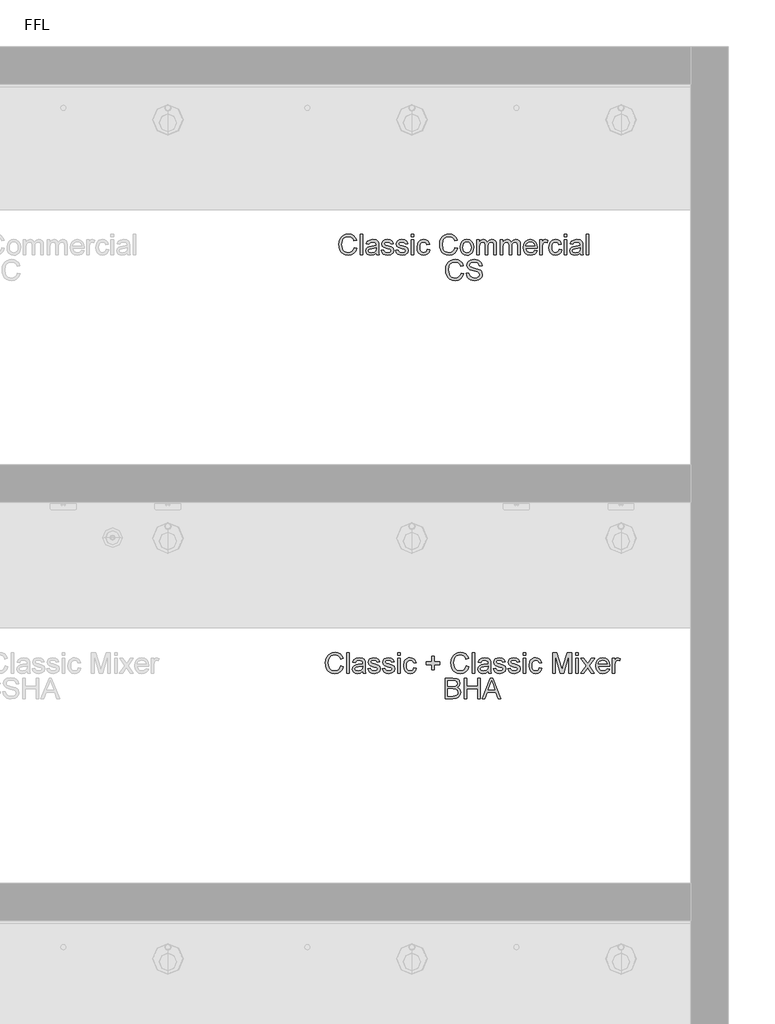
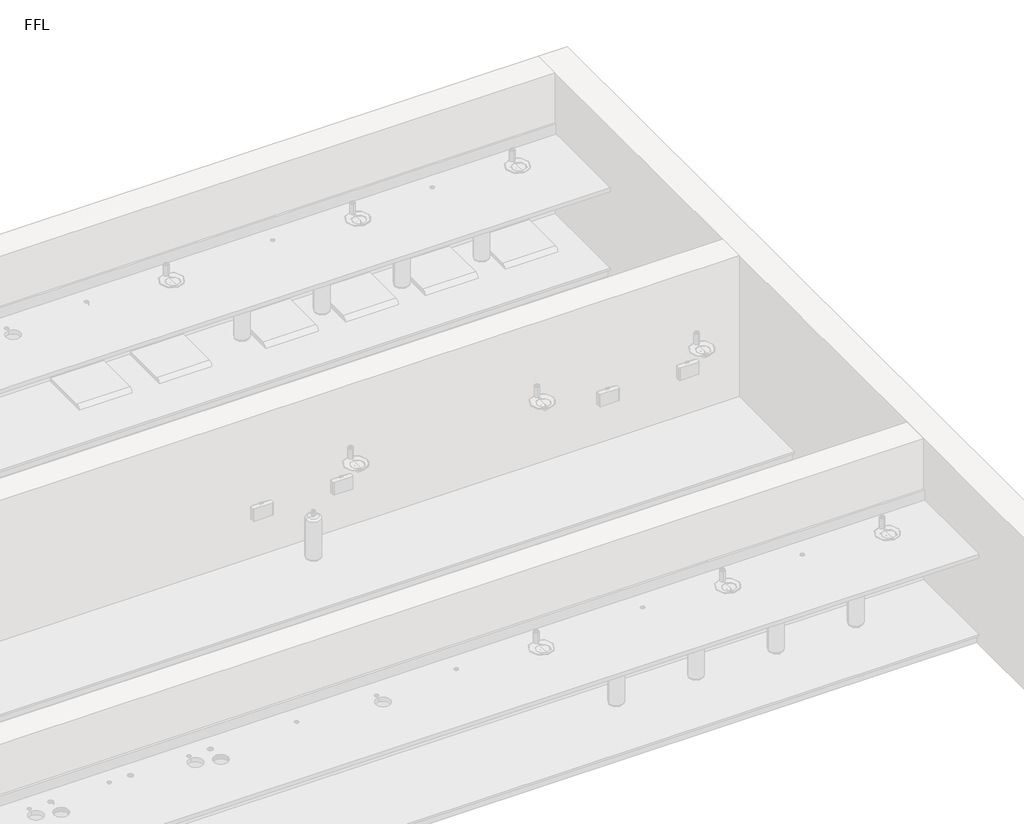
# One storey, part 13 of 13: 2 proxies.
"""IFC4 building model written with IfcOpenShell, lengths in millimetres."""

from ifc_helpers import new_model, si_unit, origin, origin_with_axes, place, context, project, spatial, polyline, outline, extrude, element, save

model = new_model("IFC4")

# Units and contexts
model_context = context("Model", 3, world=origin())
ifc_project = project(units=[si_unit("LENGTHUNIT", "METRE", prefix="MILLI")], contexts=[model_context])

# Site, building, storey
site = spatial("IfcSite", under=ifc_project)
building = spatial("IfcBuilding", under=site)
storey = spatial("IfcBuildingStorey", under=building, Name="FFL", Elevation=0.0)

# Proxies
placement = place(None, origin())
element("IfcBuildingElementProxy", 1, Name="150mm Arial", ObjectType="150mm Arial", at=placement, inside=storey, context=model_context, shape_type="SweptSolid", body=[
    extrude(outline(polyline([(10117.1877841, 6676.3018309), (10135.6493225, 6671.5422155), (10127.1306927, 6650.0292948), (10113.7623033, 6634.3126482), (10096.2022071, 6624.698766), (10075.1084571, 6621.4941386), (10053.6946951, 6623.9190184), (10036.688986, 6631.1936578), (10023.6541302, 6643.065653), (10014.1529283, 6659.2826001), (10008.352147, 6678.3481049), (10006.4185533, 6698.7657732), (10008.6045509, 6720.3012299), (10015.1625437, 6738.8979847), (10025.7499836, 6753.9655929), (10040.0243225, 6764.9136097), (10056.9534091, 6771.5797756), (10075.5050917, 6773.8018309), (10095.7469788, 6770.9262299), (10112.4822552, 6762.299427), (10125.1880845, 6748.4532732), (10133.3416302, 6729.9196193), (10114.8800917, 6725.5205809), (10108.4798514, 6738.9836217), (10099.735861, 6748.2188982), (10088.5399475, 6753.5599439), (10074.7839379, 6755.3402924), (10058.9275677, 6753.3661338), (10045.9017264, 6747.4436578), (10036.0174115, 6738.1948597), (10029.5856206, 6726.2417347), (10024.8800917, 6698.8018309), (10030.4510052, 6666.9989463), (10037.5723994, 6655.1224439), (10047.7947552, 6646.6804367), (10060.0498634, 6641.6368669), (10073.2695148, 6639.955677), (10088.6796711, 6642.2453405), (10101.5207167, 6649.1143309), (10111.2157288, 6660.4905328), (10117.1877841, 6676.3018309)])), origin_with_axes(), (0.0, 0.0, 1.0), 5.0),
    extrude(outline(polyline([(10158.7262456, 6623.8018309), (10158.7262456, 6771.4941386), (10177.1877841, 6771.4941386), (10177.1877841, 6623.8018309), (10158.7262456, 6623.8018309)])), origin_with_axes(), (0.0, 0.0, 1.0), 5.0),
    extrude(outline(polyline([(10274.110861, 6637.6479847), (10256.2082167, 6625.1359655), (10236.4305725, 6621.4941386), (10221.0023874, 6623.6846434), (10209.6216783, 6630.2561578), (10202.6039499, 6640.2351242), (10200.2647071, 6652.6479847), (10203.798361, 6667.2513501), (10213.0832167, 6677.8523117), (10226.0098994, 6683.910004), (10241.9834571, 6686.6864463), (10274.0026879, 6693.0326001), (10274.110861, 6697.143177), (10272.8398273, 6705.3823597), (10269.0267264, 6710.7729847), (10260.4990821, 6714.7753886), (10248.6180725, 6716.1095232), (10229.9401879, 6712.5578405), (10221.0339379, 6699.955677), (10202.5723994, 6702.2633693), (10210.5591783, 6720.2922155), (10226.6409091, 6730.8571193), (10250.9978802, 6734.5710617), (10273.3716783, 6731.2898117), (10286.0098994, 6723.050629), (10291.6709571, 6710.5205809), (10292.5723994, 6694.3667347), (10292.5723994, 6671.3979847), (10293.5098994, 6639.3246674), (10297.1877841, 6623.8018309), (10278.7262456, 6623.8018309), (10274.110861, 6637.6479847)]), holes=[polyline([(10274.110861, 6674.5710617), (10244.3272071, 6668.910004), (10228.4437937, 6665.9172155), (10221.2502841, 6661.049427), (10218.7262456, 6653.9460617), (10224.2250437, 6643.9580809), (10240.360861, 6639.955677), (10259.0387456, 6644.3727443), (10271.0820148, 6655.0638501), (10274.0026879, 6669.3426963), (10274.110861, 6674.5710617)])]), origin_with_axes(), (0.0, 0.0, 1.0), 5.0),
    extrude(outline(polyline([(10311.0339379, 6656.1095232), (10329.4954764, 6658.4172155), (10332.407135, 6650.5205809), (10338.0411494, 6644.7152924), (10357.6204764, 6639.955677), (10376.4425917, 6644.3186578), (10382.5723994, 6654.5590424), (10376.4065341, 6662.8523117), (10357.4041302, 6668.1167347), (10329.6036494, 6677.1491867), (10317.470236, 6687.6960617), (10313.3416302, 6702.5878886), (10316.6589379, 6716.3438982), (10325.7094187, 6726.8547155), (10337.4461975, 6732.3174559), (10353.329611, 6734.5710617), (10375.7935533, 6730.9472636), (10390.0723994, 6721.1395713), (10396.4185533, 6704.5710617), (10377.9570148, 6702.2633693), (10371.0159091, 6712.4496674), (10354.7719187, 6716.1095232), (10337.1036494, 6712.611927), (10331.8031687, 6704.4628886), (10334.0026879, 6699.0902924), (10340.8897071, 6695.0157732), (10356.7911494, 6691.0854847), (10383.8885052, 6682.3955809), (10396.4726398, 6672.5518309), (10401.0339379, 6656.5061578), (10395.6793706, 6638.8378886), (10380.2286494, 6626.019379), (10357.3680725, 6621.4941386), (10338.7532889, 6623.675629), (10325.1685533, 6630.2201001), (10316.1000437, 6641.0554367), (10311.0339379, 6656.1095232)])), origin_with_axes(), (0.0, 0.0, 1.0), 5.0),
    extrude(outline(polyline([(10414.8800917, 6656.1095232), (10433.3416302, 6658.4172155), (10436.2532889, 6650.5205809), (10441.8873033, 6644.7152924), (10461.4666302, 6639.955677), (10480.2887456, 6644.3186578), (10486.4185533, 6654.5590424), (10480.2526879, 6662.8523117), (10461.2502841, 6668.1167347), (10433.4498033, 6677.1491867), (10421.3163898, 6687.6960617), (10417.1877841, 6702.5878886), (10420.5050917, 6716.3438982), (10429.5555725, 6726.8547155), (10441.2923514, 6732.3174559), (10457.1757648, 6734.5710617), (10479.6397071, 6730.9472636), (10493.9185533, 6721.1395713), (10500.2647071, 6704.5710617), (10481.8031687, 6702.2633693), (10474.8620629, 6712.4496674), (10458.6180725, 6716.1095232), (10440.9498033, 6712.611927), (10435.6493225, 6704.4628886), (10437.8488417, 6699.0902924), (10444.735861, 6695.0157732), (10460.6373033, 6691.0854847), (10487.7346591, 6682.3955809), (10500.3187937, 6672.5518309), (10504.8800917, 6656.5061578), (10499.5255244, 6638.8378886), (10484.0748033, 6626.019379), (10461.2142264, 6621.4941386), (10442.5994427, 6623.675629), (10429.0147071, 6630.2201001), (10419.9461975, 6641.0554367), (10414.8800917, 6656.1095232)])), origin_with_axes(), (0.0, 0.0, 1.0), 5.0),
    extrude(outline(polyline([(10525.6493225, 6623.8018309), (10525.6493225, 6732.2633693), (10544.110861, 6732.2633693), (10544.110861, 6623.8018309), (10525.6493225, 6623.8018309)])), origin_with_axes(), (0.0, 0.0, 1.0), 5.0),
    extrude(outline(polyline([(10525.6493225, 6753.0326001), (10525.6493225, 6771.4941386), (10544.110861, 6771.4941386), (10544.110861, 6753.0326001), (10525.6493225, 6753.0326001)])), origin_with_axes(), (0.0, 0.0, 1.0), 5.0),
    extrude(outline(polyline([(10641.0339379, 6663.0326001), (10659.4954764, 6660.7249078), (10654.3482408, 6644.3051362), (10644.6757648, 6631.8967828), (10631.3885052, 6624.0947996), (10615.3969187, 6621.4941386), (10595.758998, 6625.1224439), (10580.4029283, 6636.0073597), (10570.4915701, 6653.6711217), (10567.1877841, 6677.6359655), (10572.8308129, 6708.3030328), (10579.9522071, 6719.8009294), (10590.0303321, 6728.0085617), (10602.087123, 6732.9304367), (10615.1445148, 6734.5710617), (10630.743974, 6732.3174559), (10643.2154283, 6725.5566386), (10652.1622432, 6714.6491867), (10657.1877841, 6699.955677), (10638.7262456, 6697.6479847), (10630.1625437, 6711.4761097), (10615.2887456, 6716.1095232), (10603.3581566, 6713.8288742), (10593.8885052, 6706.986927), (10587.7091182, 6695.2140905), (10585.6493225, 6678.1407732), (10587.6640461, 6660.8375881), (10593.7082167, 6649.0241867), (10603.0065941, 6642.2228044), (10614.7839379, 6639.955677), (10624.3437336, 6641.3709415), (10632.1817744, 6645.6167347), (10637.883397, 6652.8012299), (10641.0339379, 6663.0326001)])), origin_with_axes(), (0.0, 0.0, 1.0), 5.0),
    extrude(outline(polyline([(10839.4954764, 6676.3018309), (10857.9570148, 6671.5422155), (10849.438385, 6650.0292948), (10836.0699956, 6634.3126482), (10818.5098994, 6624.698766), (10797.4161494, 6621.4941386), (10776.0023874, 6623.9190184), (10758.9966783, 6631.1936578), (10745.9618225, 6643.065653), (10736.4606206, 6659.2826001), (10730.6598393, 6678.3481049), (10728.7262456, 6698.7657732), (10730.9122432, 6720.3012299), (10737.470236, 6738.8979847), (10748.0576759, 6753.9655929), (10762.3320148, 6764.9136097), (10779.2611014, 6771.5797756), (10797.8127841, 6773.8018309), (10818.0546711, 6770.9262299), (10834.7899475, 6762.299427), (10847.4957768, 6748.4532732), (10855.6493225, 6729.9196193), (10837.1877841, 6725.5205809), (10830.7875437, 6738.9836217), (10822.0435533, 6748.2188982), (10810.8476398, 6753.5599439), (10797.0916302, 6755.3402924), (10781.23526, 6753.3661338), (10768.2094187, 6747.4436578), (10758.3251038, 6738.1948597), (10751.8933129, 6726.2417347), (10747.1877841, 6698.8018309), (10752.7586975, 6666.9989463), (10759.8800917, 6655.1224439), (10770.1024475, 6646.6804367), (10782.3575557, 6641.6368669), (10795.5772071, 6639.955677), (10810.9873634, 6642.2453405), (10823.8284091, 6649.1143309), (10833.5234211, 6660.4905328), (10839.4954764, 6676.3018309)])), origin_with_axes(), (0.0, 0.0, 1.0), 5.0),
    extrude(outline(polyline([(10876.4185533, 6678.0326001), (10880.4119427, 6704.1834415), (10892.392111, 6722.5638501), (10907.1937937, 6731.5692588), (10924.9161494, 6734.5710617), (10944.3106807, 6730.9157131), (10959.8019667, 6719.9496674), (10969.9567143, 6702.5383092), (10973.3416302, 6679.5470232), (10971.845236, 6660.8961818), (10967.3560533, 6646.6984655), (10960.0047913, 6636.0659535), (10949.9221591, 6628.1107251), (10937.946498, 6623.1482852), (10924.9161494, 6621.4941386), (10905.2872432, 6625.1359655), (10889.813986, 6636.0614463), (10879.7674115, 6653.8378886), (10876.4185533, 6678.0326001)]), holes=[polyline([(10894.8800917, 6678.0686578), (10897.01651, 6661.3604246), (10903.4257648, 6649.456879), (10913.0711975, 6642.3309775), (10924.9161494, 6639.955677), (10936.7070148, 6642.3444992), (10946.3344187, 6649.5109655), (10952.7436735, 6661.5722636), (10954.8800917, 6678.6455809), (10952.7301518, 6694.8670352), (10946.2803321, 6706.6083213), (10936.6394066, 6713.7342227), (10924.9161494, 6716.1095232), (10913.0711975, 6713.7432371), (10903.4257648, 6706.644379), (10897.01651, 6694.7678766), (10894.8800917, 6678.0686578)])]), origin_with_axes(), (0.0, 0.0, 1.0), 5.0),
    extrude(outline(polyline([(10994.110861, 6623.8018309), (10994.110861, 6732.2633693), (11012.5723994, 6732.2633693), (11012.5723994, 6714.4148117), (11025.2647071, 6729.0362059), (11043.329611, 6734.5710617), (11053.5970389, 6733.1603044), (11061.8272071, 6728.9280328), (11071.9954764, 6713.1167347), (11086.4005244, 6729.2074799), (11104.5916302, 6734.5710617), (11118.4693345, 6732.3399919), (11128.7322552, 6725.6467828), (11135.0739018, 6714.3111458), (11137.1877841, 6698.1527924), (11137.1877841, 6623.8018309), (11118.7262456, 6623.8018309), (11118.7262456, 6690.2201001), (11117.0135052, 6705.6347636), (11110.8115821, 6713.2249078), (11100.2647071, 6716.1095232), (11090.2632047, 6714.2615665), (11082.1096591, 6708.7176963), (11076.6874836, 6699.0993068), (11074.8800917, 6685.0277924), (11074.8800917, 6623.8018309), (11056.4185533, 6623.8018309), (11056.4185533, 6692.2753886), (11052.1457167, 6710.160004), (11046.5071951, 6714.6221434), (11038.1373033, 6716.1095232), (11024.4714379, 6712.143177), (11015.3848994, 6700.5326001), (11012.5723994, 6678.5013501), (11012.5723994, 6623.8018309), (10994.110861, 6623.8018309)])), origin_with_axes(), (0.0, 0.0, 1.0), 5.0),
    extrude(outline(polyline([(11164.8800917, 6623.8018309), (11164.8800917, 6732.2633693), (11183.3416302, 6732.2633693), (11183.3416302, 6714.4148117), (11196.0339379, 6729.0362059), (11214.0988417, 6734.5710617), (11224.3662696, 6733.1603044), (11232.5964379, 6728.9280328), (11242.7647071, 6713.1167347), (11257.1697552, 6729.2074799), (11275.360861, 6734.5710617), (11289.2385653, 6732.3399919), (11299.501486, 6725.6467828), (11305.8431326, 6714.3111458), (11307.9570148, 6698.1527924), (11307.9570148, 6623.8018309), (11289.4954764, 6623.8018309), (11289.4954764, 6690.2201001), (11287.782736, 6705.6347636), (11281.5808129, 6713.2249078), (11271.0339379, 6716.1095232), (11261.0324355, 6714.2615665), (11252.8788898, 6708.7176963), (11247.4567143, 6699.0993068), (11245.6493225, 6685.0277924), (11245.6493225, 6623.8018309), (11227.1877841, 6623.8018309), (11227.1877841, 6692.2753886), (11222.9149475, 6710.160004), (11217.2764259, 6714.6221434), (11208.9065341, 6716.1095232), (11195.2406687, 6712.143177), (11186.1541302, 6700.5326001), (11183.3416302, 6678.5013501), (11183.3416302, 6623.8018309), (11164.8800917, 6623.8018309)])), origin_with_axes(), (0.0, 0.0, 1.0), 5.0),
    extrude(outline(polyline([(11411.5868225, 6656.1095232), (11429.6877841, 6653.8018309), (11423.165849, 6640.1630088), (11412.7586975, 6629.9676963), (11398.7007047, 6623.612528), (11381.2262456, 6621.4941386), (11359.5645869, 6625.1494871), (11342.8969187, 6636.1155328), (11332.2689139, 6653.6801362), (11328.7262456, 6677.1311578), (11332.3049716, 6701.3709415), (11343.0411494, 6719.4989463), (11359.4834571, 6730.8030328), (11380.1805725, 6734.5710617), (11400.2331566, 6730.8120472), (11416.2562937, 6719.535004), (11426.7626038, 6701.4430568), (11430.2647071, 6677.2393309), (11430.1565341, 6672.2633693), (11347.1877841, 6672.2633693), (11350.383397, 6658.4442588), (11357.8067744, 6648.285004), (11368.5204163, 6642.0380088), (11381.5868225, 6639.955677), (11399.6877841, 6643.8138501), (11411.5868225, 6656.1095232)]), holes=[polyline([(11347.1877841, 6690.7249078), (11411.8031687, 6690.7249078), (11409.3061735, 6700.4785136), (11404.4113417, 6707.455677), (11393.6481206, 6713.9460617), (11380.1084571, 6716.1095232), (11367.6640461, 6714.3832612), (11357.3740821, 6709.2044751), (11350.2211374, 6701.1320592), (11347.1877841, 6690.7249078)])]), origin_with_axes(), (0.0, 0.0, 1.0), 5.0),
    extrude(outline(polyline([(11448.7262456, 6623.8018309), (11448.7262456, 6732.2633693), (11464.8800917, 6732.2633693), (11464.8800917, 6716.2176963), (11476.3464379, 6731.0013501), (11487.8848994, 6734.5710617), (11506.4185533, 6728.8739463), (11500.2526879, 6712.3234655), (11487.2719187, 6716.1095232), (11476.8332167, 6712.4676963), (11470.1805725, 6702.3715424), (11467.1877841, 6680.8090424), (11467.1877841, 6623.8018309), (11448.7262456, 6623.8018309)])), origin_with_axes(), (0.0, 0.0, 1.0), 5.0),
    extrude(outline(polyline([(11587.1877841, 6663.0326001), (11605.6493225, 6660.7249078), (11600.5020869, 6644.3051362), (11590.829611, 6631.8967828), (11577.5423514, 6624.0947996), (11561.5507648, 6621.4941386), (11541.9128441, 6625.1224439), (11526.5567744, 6636.0073597), (11516.6454163, 6653.6711217), (11513.3416302, 6677.6359655), (11518.9846591, 6708.3030328), (11526.1060533, 6719.8009294), (11536.1841783, 6728.0085617), (11548.2409691, 6732.9304367), (11561.298361, 6734.5710617), (11576.8978201, 6732.3174559), (11589.3692744, 6725.5566386), (11598.3160893, 6714.6491867), (11603.3416302, 6699.955677), (11584.8800917, 6697.6479847), (11576.3163898, 6711.4761097), (11561.4425917, 6716.1095232), (11549.5120028, 6713.8288742), (11540.0423514, 6706.986927), (11533.8629643, 6695.2140905), (11531.8031687, 6678.1407732), (11533.8178922, 6660.8375881), (11539.8620629, 6649.0241867), (11549.1604403, 6642.2228044), (11560.9377841, 6639.955677), (11570.4975797, 6641.3709415), (11578.3356206, 6645.6167347), (11584.0372432, 6652.8012299), (11587.1877841, 6663.0326001)])), origin_with_axes(), (0.0, 0.0, 1.0), 5.0),
    extrude(outline(polyline([(11621.8031687, 6623.8018309), (11621.8031687, 6732.2633693), (11640.2647071, 6732.2633693), (11640.2647071, 6623.8018309), (11621.8031687, 6623.8018309)])), origin_with_axes(), (0.0, 0.0, 1.0), 5.0),
    extrude(outline(polyline([(11621.8031687, 6753.0326001), (11621.8031687, 6771.4941386), (11640.2647071, 6771.4941386), (11640.2647071, 6753.0326001), (11621.8031687, 6753.0326001)])), origin_with_axes(), (0.0, 0.0, 1.0), 5.0),
    extrude(outline(polyline([(11737.1877841, 6637.6479847), (11719.2851398, 6625.1359655), (11699.5074956, 6621.4941386), (11684.0793105, 6623.6846434), (11672.6986014, 6630.2561578), (11665.680873, 6640.2351242), (11663.3416302, 6652.6479847), (11666.8752841, 6667.2513501), (11676.1601398, 6677.8523117), (11689.0868225, 6683.910004), (11705.0603802, 6686.6864463), (11737.079611, 6693.0326001), (11737.1877841, 6697.143177), (11735.9167504, 6705.3823597), (11732.1036494, 6710.7729847), (11723.5760052, 6714.7753886), (11711.6949956, 6716.1095232), (11693.017111, 6712.5578405), (11684.110861, 6699.955677), (11665.6493225, 6702.2633693), (11673.6361014, 6720.2922155), (11689.7178321, 6730.8571193), (11714.0748033, 6734.5710617), (11736.4486014, 6731.2898117), (11749.0868225, 6723.050629), (11754.7478802, 6710.5205809), (11755.6493225, 6694.3667347), (11755.6493225, 6671.3979847), (11756.5868225, 6639.3246674), (11760.2647071, 6623.8018309), (11741.8031687, 6623.8018309), (11737.1877841, 6637.6479847)]), holes=[polyline([(11737.1877841, 6674.5710617), (11707.4041302, 6668.910004), (11691.5207167, 6665.9172155), (11684.3272071, 6661.049427), (11681.8031687, 6653.9460617), (11687.3019667, 6643.9580809), (11703.4377841, 6639.955677), (11722.1156687, 6644.3727443), (11734.1589379, 6655.0638501), (11737.079611, 6669.3426963), (11737.1877841, 6674.5710617)])]), origin_with_axes(), (0.0, 0.0, 1.0), 5.0),
    extrude(outline(polyline([(11781.0339379, 6623.8018309), (11781.0339379, 6771.4941386), (11799.4954764, 6771.4941386), (11799.4954764, 6623.8018309), (11781.0339379, 6623.8018309)])), origin_with_axes(), (0.0, 0.0, 1.0), 5.0),
    extrude(outline(polyline([(10883.3416302, 6493.9941386), (10901.8031687, 6489.2345232), (10893.2845389, 6467.7216025), (10879.9161494, 6452.0049559), (10862.3560533, 6442.3910737), (10841.2623033, 6439.1864463), (10819.8485413, 6441.6113261), (10802.8428321, 6448.8859655), (10789.8079764, 6460.7579607), (10780.3067744, 6476.9749078), (10774.5059932, 6496.0404126), (10772.5723994, 6516.4580809), (10774.758397, 6537.9935376), (10781.3163898, 6556.5902924), (10791.9038297, 6571.6579006), (10806.1781687, 6582.6059174), (10823.1072552, 6589.2720833), (10841.6589379, 6591.4941386), (10861.9008249, 6588.6185376), (10878.6361014, 6579.9917347), (10891.3419307, 6566.1455809), (10899.4954764, 6547.611927), (10881.0339379, 6543.2128886), (10874.6336975, 6556.6759294), (10865.8897071, 6565.9112059), (10854.6937937, 6571.2522516), (10840.9377841, 6573.0326001), (10825.0814139, 6571.0584415), (10812.0555725, 6565.1359655), (10802.1712576, 6555.8871674), (10795.7394667, 6543.9340424), (10791.0339379, 6516.4941386), (10796.6048514, 6484.691254), (10803.7262456, 6472.8147516), (10813.9486014, 6464.3727443), (10826.2037095, 6459.3291746), (10839.423361, 6457.6479847), (10854.8335172, 6459.9376482), (10867.6745629, 6466.8066386), (10877.3695749, 6478.1828405), (10883.3416302, 6493.9941386)])), origin_with_axes(), (0.0, 0.0, 1.0), 5.0),
    extrude(outline(polyline([(10920.2647071, 6492.2633693), (10938.7262456, 6492.2633693), (10944.6757648, 6473.783802), (10959.2070148, 6462.1011097), (10981.3464379, 6457.6479847), (11000.6373033, 6461.019379), (11013.095236, 6470.2862059), (11017.1877841, 6482.6720232), (11014.1228802, 6494.1924559), (11001.5748033, 6502.5758693), (10974.6937937, 6509.6251482), (10945.7574956, 6518.7297155), (10930.0543706, 6532.4676963), (10924.8800917, 6550.8210617), (10926.4801518, 6561.6338621), (10931.2803321, 6571.7164943), (10939.1544307, 6580.2621674), (10949.9762456, 6586.4640905), (10977.3440341, 6591.4941386), (11006.5507648, 6586.2297155), (11017.7466783, 6579.7303165), (11026.0219187, 6570.7609655), (11031.2592985, 6559.8805568), (11033.3416302, 6547.6479847), (11014.8800917, 6547.6479847), (11011.4906687, 6558.6636097), (11004.423361, 6566.6143309), (10993.3806927, 6571.4280328), (10978.0651879, 6573.0326001), (10962.3891062, 6571.4460617), (10951.6348994, 6566.6864463), (10945.4149475, 6559.6822395), (10943.3416302, 6551.361927), (10944.8109812, 6544.2675761), (10949.2190341, 6538.5614463), (10979.3632648, 6528.2489463), (11012.0315341, 6518.9821193), (11022.555873, 6512.284403), (11029.8981206, 6504.018177), (11035.6493225, 6483.1407732), (11033.9951759, 6471.7600641), (11029.032736, 6461.0554367), (11020.9648273, 6451.8426963), (11009.9942744, 6444.9376482), (10982.0675917, 6439.1864463), (10963.9801518, 6440.736927), (10949.0928321, 6445.3883693), (10937.2343586, 6453.158802), (10928.2334571, 6464.066254), (10922.4552119, 6477.3535136), (10920.2647071, 6492.2633693)])), origin_with_axes(), (0.0, 0.0, 1.0), 5.0),
])
element("IfcBuildingElementProxy", 2, Name="150mm Arial", ObjectType="150mm Arial", at=placement, inside=storey, context=model_context, shape_type="SweptSolid", body=[
    extrude(outline(polyline([(10020.7273303, 3676.3018309), (10039.1888688, 3671.5422155), (10030.670239, 3650.0292948), (10017.3018496, 3634.3126482), (9999.7417534, 3624.698766), (9978.6480034, 3621.4941386), (9957.2342414, 3623.9190184), (9940.2285323, 3631.1936578), (9927.1936765, 3643.065653), (9917.6924746, 3659.2826001), (9911.8916933, 3678.3481049), (9909.9580996, 3698.7657732), (9912.1440972, 3720.3012299), (9918.70209, 3738.8979847), (9929.2895299, 3753.9655929), (9943.5638688, 3764.9136097), (9960.4929553, 3771.5797756), (9979.044638, 3773.8018309), (9999.286525, 3770.9262299), (10016.0218015, 3762.299427), (10028.7276308, 3748.4532732), (10036.8811765, 3729.9196193), (10018.419638, 3725.5205809), (10012.0193976, 3738.9836217), (10003.2754073, 3748.2188982), (9992.0794938, 3753.5599439), (9978.3234842, 3755.3402924), (9962.467114, 3753.3661338), (9949.4412726, 3747.4436578), (9939.5569577, 3738.1948597), (9933.1251669, 3726.2417347), (9928.419638, 3698.8018309), (9933.9905515, 3666.9989463), (9941.1119457, 3655.1224439), (9951.3343015, 3646.6804367), (9963.5894097, 3641.6368669), (9976.8090611, 3639.955677), (9992.2192174, 3642.2453405), (10005.060263, 3649.1143309), (10014.755275, 3660.4905328), (10020.7273303, 3676.3018309)])), origin_with_axes(), (0.0, 0.0, 1.0), 5.0),
    extrude(outline(polyline([(10062.2657919, 3623.8018309), (10062.2657919, 3771.4941386), (10080.7273303, 3771.4941386), (10080.7273303, 3623.8018309), (10062.2657919, 3623.8018309)])), origin_with_axes(), (0.0, 0.0, 1.0), 5.0),
    extrude(outline(polyline([(10177.6504073, 3637.6479847), (10159.747763, 3625.1359655), (10139.9701188, 3621.4941386), (10124.5419337, 3623.6846434), (10113.1612246, 3630.2561578), (10106.1434962, 3640.2351242), (10103.8042534, 3652.6479847), (10107.3379073, 3667.2513501), (10116.622763, 3677.8523117), (10129.5494457, 3683.910004), (10145.5230034, 3686.6864463), (10177.5422342, 3693.0326001), (10177.6504073, 3697.143177), (10176.3793736, 3705.3823597), (10172.5662726, 3710.7729847), (10164.0386284, 3714.7753886), (10152.1576188, 3716.1095232), (10133.4797342, 3712.5578405), (10124.5734842, 3699.955677), (10106.1119457, 3702.2633693), (10114.0987246, 3720.2922155), (10130.1804553, 3730.8571193), (10154.5374265, 3734.5710617), (10176.9112246, 3731.2898117), (10189.5494457, 3723.050629), (10195.2105034, 3710.5205809), (10196.1119457, 3694.3667347), (10196.1119457, 3671.3979847), (10197.0494457, 3639.3246674), (10200.7273303, 3623.8018309), (10182.2657919, 3623.8018309), (10177.6504073, 3637.6479847)]), holes=[polyline([(10177.6504073, 3674.5710617), (10147.8667534, 3668.910004), (10131.98334, 3665.9172155), (10124.7898303, 3661.049427), (10122.2657919, 3653.9460617), (10127.76459, 3643.9580809), (10143.9004073, 3639.955677), (10162.5782919, 3644.3727443), (10174.6215611, 3655.0638501), (10177.5422342, 3669.3426963), (10177.6504073, 3674.5710617)])]), origin_with_axes(), (0.0, 0.0, 1.0), 5.0),
    extrude(outline(polyline([(10214.5734842, 3656.1095232), (10233.0350226, 3658.4172155), (10235.9466813, 3650.5205809), (10241.5806957, 3644.7152924), (10261.1600226, 3639.955677), (10279.982138, 3644.3186578), (10286.1119457, 3654.5590424), (10279.9460803, 3662.8523117), (10260.9436765, 3668.1167347), (10233.1431957, 3677.1491867), (10221.0097823, 3687.6960617), (10216.8811765, 3702.5878886), (10220.1984842, 3716.3438982), (10229.248965, 3726.8547155), (10240.9857438, 3732.3174559), (10256.8691573, 3734.5710617), (10279.3330996, 3730.9472636), (10293.6119457, 3721.1395713), (10299.9580996, 3704.5710617), (10281.4965611, 3702.2633693), (10274.5554553, 3712.4496674), (10258.311465, 3716.1095232), (10240.6431957, 3712.611927), (10235.342715, 3704.4628886), (10237.5422342, 3699.0902924), (10244.4292534, 3695.0157732), (10260.3306957, 3691.0854847), (10287.4280515, 3682.3955809), (10300.0121861, 3672.5518309), (10304.5734842, 3656.5061578), (10299.2189169, 3638.8378886), (10283.7681957, 3626.019379), (10260.9076188, 3621.4941386), (10242.2928351, 3623.675629), (10228.7080996, 3630.2201001), (10219.63959, 3641.0554367), (10214.5734842, 3656.1095232)])), origin_with_axes(), (0.0, 0.0, 1.0), 5.0),
    extrude(outline(polyline([(10318.419638, 3656.1095232), (10336.8811765, 3658.4172155), (10339.7928351, 3650.5205809), (10345.4268496, 3644.7152924), (10365.0061765, 3639.955677), (10383.8282919, 3644.3186578), (10389.9580996, 3654.5590424), (10383.7922342, 3662.8523117), (10364.7898303, 3668.1167347), (10336.9893496, 3677.1491867), (10324.8559361, 3687.6960617), (10320.7273303, 3702.5878886), (10324.044638, 3716.3438982), (10333.0951188, 3726.8547155), (10344.8318976, 3732.3174559), (10360.7153111, 3734.5710617), (10383.1792534, 3730.9472636), (10397.4580996, 3721.1395713), (10403.8042534, 3704.5710617), (10385.342715, 3702.2633693), (10378.4016092, 3712.4496674), (10362.1576188, 3716.1095232), (10344.4893496, 3712.611927), (10339.1888688, 3704.4628886), (10341.388388, 3699.0902924), (10348.2754073, 3695.0157732), (10364.1768496, 3691.0854847), (10391.2742053, 3682.3955809), (10403.85834, 3672.5518309), (10408.419638, 3656.5061578), (10403.0650707, 3638.8378886), (10387.6143496, 3626.019379), (10364.7537726, 3621.4941386), (10346.138989, 3623.675629), (10332.5542534, 3630.2201001), (10323.4857438, 3641.0554367), (10318.419638, 3656.1095232)])), origin_with_axes(), (0.0, 0.0, 1.0), 5.0),
    extrude(outline(polyline([(10429.1888688, 3623.8018309), (10429.1888688, 3732.2633693), (10447.6504073, 3732.2633693), (10447.6504073, 3623.8018309), (10429.1888688, 3623.8018309)])), origin_with_axes(), (0.0, 0.0, 1.0), 5.0),
    extrude(outline(polyline([(10429.1888688, 3753.0326001), (10429.1888688, 3771.4941386), (10447.6504073, 3771.4941386), (10447.6504073, 3753.0326001), (10429.1888688, 3753.0326001)])), origin_with_axes(), (0.0, 0.0, 1.0), 5.0),
    extrude(outline(polyline([(10544.5734842, 3663.0326001), (10563.0350226, 3660.7249078), (10557.8877871, 3644.3051362), (10548.2153111, 3631.8967828), (10534.9280515, 3624.0947996), (10518.936465, 3621.4941386), (10499.2985443, 3625.1224439), (10483.9424746, 3636.0073597), (10474.0311164, 3653.6711217), (10470.7273303, 3677.6359655), (10476.3703592, 3708.3030328), (10483.4917534, 3719.8009294), (10493.5698784, 3728.0085617), (10505.6266693, 3732.9304367), (10518.6840611, 3734.5710617), (10534.2835202, 3732.3174559), (10546.7549746, 3725.5566386), (10555.7017895, 3714.6491867), (10560.7273303, 3699.955677), (10542.2657919, 3697.6479847), (10533.70209, 3711.4761097), (10518.8282919, 3716.1095232), (10506.8977029, 3713.8288742), (10497.4280515, 3706.986927), (10491.2486645, 3695.2140905), (10489.1888688, 3678.1407732), (10491.2035924, 3660.8375881), (10497.247763, 3649.0241867), (10506.5461404, 3642.2228044), (10518.3234842, 3639.955677), (10527.8832799, 3641.3709415), (10535.7213207, 3645.6167347), (10541.4229433, 3652.8012299), (10544.5734842, 3663.0326001)])), origin_with_axes(), (0.0, 0.0, 1.0), 5.0),
    extrude(outline(polyline([(10673.8042534, 3646.878754), (10673.8042534, 3686.1095232), (10634.5734842, 3686.1095232), (10634.5734842, 3704.5710617), (10673.8042534, 3704.5710617), (10673.8042534, 3743.8018309), (10692.2657919, 3743.8018309), (10692.2657919, 3704.5710617), (10731.4965611, 3704.5710617), (10731.4965611, 3686.1095232), (10692.2657919, 3686.1095232), (10692.2657919, 3646.878754), (10673.8042534, 3646.878754)])), origin_with_axes(), (0.0, 0.0, 1.0), 5.0),
    extrude(outline(polyline([(10920.7273303, 3676.3018309), (10939.1888688, 3671.5422155), (10930.670239, 3650.0292948), (10917.3018496, 3634.3126482), (10899.7417534, 3624.698766), (10878.6480034, 3621.4941386), (10857.2342414, 3623.9190184), (10840.2285323, 3631.1936578), (10827.1936765, 3643.065653), (10817.6924746, 3659.2826001), (10811.8916933, 3678.3481049), (10809.9580996, 3698.7657732), (10812.1440972, 3720.3012299), (10818.70209, 3738.8979847), (10829.2895299, 3753.9655929), (10843.5638688, 3764.9136097), (10860.4929553, 3771.5797756), (10879.044638, 3773.8018309), (10899.286525, 3770.9262299), (10916.0218015, 3762.299427), (10928.7276308, 3748.4532732), (10936.8811765, 3729.9196193), (10918.419638, 3725.5205809), (10912.0193976, 3738.9836217), (10903.2754073, 3748.2188982), (10892.0794938, 3753.5599439), (10878.3234842, 3755.3402924), (10862.467114, 3753.3661338), (10849.4412726, 3747.4436578), (10839.5569577, 3738.1948597), (10833.1251669, 3726.2417347), (10828.419638, 3698.8018309), (10833.9905515, 3666.9989463), (10841.1119457, 3655.1224439), (10851.3343015, 3646.6804367), (10863.5894097, 3641.6368669), (10876.8090611, 3639.955677), (10892.2192174, 3642.2453405), (10905.060263, 3649.1143309), (10914.755275, 3660.4905328), (10920.7273303, 3676.3018309)])), origin_with_axes(), (0.0, 0.0, 1.0), 5.0),
    extrude(outline(polyline([(10962.2657919, 3623.8018309), (10962.2657919, 3771.4941386), (10980.7273303, 3771.4941386), (10980.7273303, 3623.8018309), (10962.2657919, 3623.8018309)])), origin_with_axes(), (0.0, 0.0, 1.0), 5.0),
    extrude(outline(polyline([(11077.6504073, 3637.6479847), (11059.747763, 3625.1359655), (11039.9701188, 3621.4941386), (11024.5419337, 3623.6846434), (11013.1612246, 3630.2561578), (11006.1434962, 3640.2351242), (11003.8042534, 3652.6479847), (11007.3379073, 3667.2513501), (11016.622763, 3677.8523117), (11029.5494457, 3683.910004), (11045.5230034, 3686.6864463), (11077.5422342, 3693.0326001), (11077.6504073, 3697.143177), (11076.3793736, 3705.3823597), (11072.5662726, 3710.7729847), (11064.0386284, 3714.7753886), (11052.1576188, 3716.1095232), (11033.4797342, 3712.5578405), (11024.5734842, 3699.955677), (11006.1119457, 3702.2633693), (11014.0987246, 3720.2922155), (11030.1804553, 3730.8571193), (11054.5374265, 3734.5710617), (11076.9112246, 3731.2898117), (11089.5494457, 3723.050629), (11095.2105034, 3710.5205809), (11096.1119457, 3694.3667347), (11096.1119457, 3671.3979847), (11097.0494457, 3639.3246674), (11100.7273303, 3623.8018309), (11082.2657919, 3623.8018309), (11077.6504073, 3637.6479847)]), holes=[polyline([(11077.6504073, 3674.5710617), (11047.8667534, 3668.910004), (11031.98334, 3665.9172155), (11024.7898303, 3661.049427), (11022.2657919, 3653.9460617), (11027.76459, 3643.9580809), (11043.9004073, 3639.955677), (11062.5782919, 3644.3727443), (11074.6215611, 3655.0638501), (11077.5422342, 3669.3426963), (11077.6504073, 3674.5710617)])]), origin_with_axes(), (0.0, 0.0, 1.0), 5.0),
    extrude(outline(polyline([(11114.5734842, 3656.1095232), (11133.0350226, 3658.4172155), (11135.9466813, 3650.5205809), (11141.5806957, 3644.7152924), (11161.1600226, 3639.955677), (11179.982138, 3644.3186578), (11186.1119457, 3654.5590424), (11179.9460803, 3662.8523117), (11160.9436765, 3668.1167347), (11133.1431957, 3677.1491867), (11121.0097823, 3687.6960617), (11116.8811765, 3702.5878886), (11120.1984842, 3716.3438982), (11129.248965, 3726.8547155), (11140.9857438, 3732.3174559), (11156.8691573, 3734.5710617), (11179.3330996, 3730.9472636), (11193.6119457, 3721.1395713), (11199.9580996, 3704.5710617), (11181.4965611, 3702.2633693), (11174.5554553, 3712.4496674), (11158.311465, 3716.1095232), (11140.6431957, 3712.611927), (11135.342715, 3704.4628886), (11137.5422342, 3699.0902924), (11144.4292534, 3695.0157732), (11160.3306957, 3691.0854847), (11187.4280515, 3682.3955809), (11200.0121861, 3672.5518309), (11204.5734842, 3656.5061578), (11199.2189169, 3638.8378886), (11183.7681957, 3626.019379), (11160.9076188, 3621.4941386), (11142.2928351, 3623.675629), (11128.7080996, 3630.2201001), (11119.63959, 3641.0554367), (11114.5734842, 3656.1095232)])), origin_with_axes(), (0.0, 0.0, 1.0), 5.0),
    extrude(outline(polyline([(11218.419638, 3656.1095232), (11236.8811765, 3658.4172155), (11239.7928351, 3650.5205809), (11245.4268496, 3644.7152924), (11265.0061765, 3639.955677), (11283.8282919, 3644.3186578), (11289.9580996, 3654.5590424), (11283.7922342, 3662.8523117), (11264.7898303, 3668.1167347), (11236.9893496, 3677.1491867), (11224.8559361, 3687.6960617), (11220.7273303, 3702.5878886), (11224.044638, 3716.3438982), (11233.0951188, 3726.8547155), (11244.8318976, 3732.3174559), (11260.7153111, 3734.5710617), (11283.1792534, 3730.9472636), (11297.4580996, 3721.1395713), (11303.8042534, 3704.5710617), (11285.342715, 3702.2633693), (11278.4016092, 3712.4496674), (11262.1576188, 3716.1095232), (11244.4893496, 3712.611927), (11239.1888688, 3704.4628886), (11241.388388, 3699.0902924), (11248.2754073, 3695.0157732), (11264.1768496, 3691.0854847), (11291.2742053, 3682.3955809), (11303.85834, 3672.5518309), (11308.419638, 3656.5061578), (11303.0650707, 3638.8378886), (11287.6143496, 3626.019379), (11264.7537726, 3621.4941386), (11246.138989, 3623.675629), (11232.5542534, 3630.2201001), (11223.4857438, 3641.0554367), (11218.419638, 3656.1095232)])), origin_with_axes(), (0.0, 0.0, 1.0), 5.0),
    extrude(outline(polyline([(11329.1888688, 3623.8018309), (11329.1888688, 3732.2633693), (11347.6504073, 3732.2633693), (11347.6504073, 3623.8018309), (11329.1888688, 3623.8018309)])), origin_with_axes(), (0.0, 0.0, 1.0), 5.0),
    extrude(outline(polyline([(11329.1888688, 3753.0326001), (11329.1888688, 3771.4941386), (11347.6504073, 3771.4941386), (11347.6504073, 3753.0326001), (11329.1888688, 3753.0326001)])), origin_with_axes(), (0.0, 0.0, 1.0), 5.0),
    extrude(outline(polyline([(11444.5734842, 3663.0326001), (11463.0350226, 3660.7249078), (11457.8877871, 3644.3051362), (11448.2153111, 3631.8967828), (11434.9280515, 3624.0947996), (11418.936465, 3621.4941386), (11399.2985443, 3625.1224439), (11383.9424746, 3636.0073597), (11374.0311164, 3653.6711217), (11370.7273303, 3677.6359655), (11376.3703592, 3708.3030328), (11383.4917534, 3719.8009294), (11393.5698784, 3728.0085617), (11405.6266693, 3732.9304367), (11418.6840611, 3734.5710617), (11434.2835202, 3732.3174559), (11446.7549746, 3725.5566386), (11455.7017895, 3714.6491867), (11460.7273303, 3699.955677), (11442.2657919, 3697.6479847), (11433.70209, 3711.4761097), (11418.8282919, 3716.1095232), (11406.8977029, 3713.8288742), (11397.4280515, 3706.986927), (11391.2486645, 3695.2140905), (11389.1888688, 3678.1407732), (11391.2035924, 3660.8375881), (11397.247763, 3649.0241867), (11406.5461404, 3642.2228044), (11418.3234842, 3639.955677), (11427.8832799, 3641.3709415), (11435.7213207, 3645.6167347), (11441.4229433, 3652.8012299), (11444.5734842, 3663.0326001)])), origin_with_axes(), (0.0, 0.0, 1.0), 5.0),
    extrude(outline(polyline([(11539.1888688, 3623.8018309), (11539.1888688, 3771.4941386), (11570.9556957, 3771.4941386), (11601.1720419, 3667.3955809), (11607.2657919, 3645.6527924), (11613.8643496, 3669.1984655), (11643.575888, 3771.4941386), (11675.342715, 3771.4941386), (11675.342715, 3623.8018309), (11656.8811765, 3623.8018309), (11656.8811765, 3753.0326001), (11619.7778111, 3623.8018309), (11594.7537726, 3623.8018309), (11557.6504073, 3753.0326001), (11557.6504073, 3623.8018309), (11539.1888688, 3623.8018309)])), origin_with_axes(), (0.0, 0.0, 1.0), 5.0),
    extrude(outline(polyline([(11705.342715, 3623.8018309), (11705.342715, 3732.2633693), (11723.8042534, 3732.2633693), (11723.8042534, 3623.8018309), (11705.342715, 3623.8018309)])), origin_with_axes(), (0.0, 0.0, 1.0), 5.0),
    extrude(outline(polyline([(11705.342715, 3753.0326001), (11705.342715, 3771.4941386), (11723.8042534, 3771.4941386), (11723.8042534, 3753.0326001), (11705.342715, 3753.0326001)])), origin_with_axes(), (0.0, 0.0, 1.0), 5.0),
    extrude(outline(polyline([(11739.9580996, 3623.8018309), (11779.405215, 3678.3210617), (11742.2657919, 3732.2633693), (11764.4773303, 3732.2633693), (11782.3980034, 3706.3018309), (11790.763388, 3694.0422155), (11798.0109842, 3704.066254), (11818.419638, 3732.2633693), (11840.6311765, 3732.2633693), (11801.6167534, 3678.3210617), (11839.1888688, 3623.8018309), (11816.9773303, 3623.8018309), (11794.3691573, 3656.5782732), (11790.2225226, 3662.5638501), (11762.169638, 3623.8018309), (11739.9580996, 3623.8018309)])), origin_with_axes(), (0.0, 0.0, 1.0), 5.0),
    extrude(outline(polyline([(11931.280215, 3656.1095232), (11949.3811765, 3653.8018309), (11942.8592414, 3640.1630088), (11932.45209, 3629.9676963), (11918.3940972, 3623.612528), (11900.919638, 3621.4941386), (11879.2579794, 3625.1494871), (11862.5903111, 3636.1155328), (11851.9623063, 3653.6801362), (11848.419638, 3677.1311578), (11851.998364, 3701.3709415), (11862.7345419, 3719.4989463), (11879.1768496, 3730.8030328), (11899.873965, 3734.5710617), (11919.9265491, 3730.8120472), (11935.9496861, 3719.535004), (11946.4559962, 3701.4430568), (11949.9580996, 3677.2393309), (11949.8499265, 3672.2633693), (11866.8811765, 3672.2633693), (11870.0767895, 3658.4442588), (11877.5001669, 3648.285004), (11888.2138087, 3642.0380088), (11901.280215, 3639.955677), (11919.3811765, 3643.8138501), (11931.280215, 3656.1095232)]), holes=[polyline([(11866.8811765, 3690.7249078), (11931.4965611, 3690.7249078), (11928.9995659, 3700.4785136), (11924.1047342, 3707.455677), (11913.341513, 3713.9460617), (11899.8018496, 3716.1095232), (11887.3574385, 3714.3832612), (11877.0674746, 3709.2044751), (11869.9145299, 3701.1320592), (11866.8811765, 3690.7249078)])]), origin_with_axes(), (0.0, 0.0, 1.0), 5.0),
    extrude(outline(polyline([(11968.419638, 3623.8018309), (11968.419638, 3732.2633693), (11984.5734842, 3732.2633693), (11984.5734842, 3716.2176963), (11996.0398303, 3731.0013501), (12007.5782919, 3734.5710617), (12026.1119457, 3728.8739463), (12019.9460803, 3712.3234655), (12006.9653111, 3716.1095232), (11996.5266092, 3712.4676963), (11989.873965, 3702.3715424), (11986.8811765, 3680.8090424), (11986.8811765, 3623.8018309), (11968.419638, 3623.8018309)])), origin_with_axes(), (0.0, 0.0, 1.0), 5.0),
    extrude(outline(polyline([(10768.419638, 3441.4941386), (10768.419638, 3589.1864463), (10824.7778111, 3589.1864463), (10852.3799746, 3584.8414943), (10861.6558159, 3579.3291746), (10868.6780515, 3571.4821193), (10874.5734842, 3552.5878886), (10869.6155515, 3535.3342828), (10854.6335803, 3522.2633693), (10865.0948183, 3516.800629), (10872.8246861, 3508.4893309), (10877.5978231, 3497.8793549), (10879.1888688, 3485.5205809), (10874.8439169, 3465.6708213), (10864.0806957, 3451.5362059), (10848.0169938, 3444.0362059), (10824.3451188, 3441.4941386), (10768.419638, 3441.4941386)]), holes=[polyline([(10786.8811765, 3529.1864463), (10820.5951188, 3529.1864463), (10840.2826188, 3530.7729847), (10852.1275707, 3537.6059174), (10856.1119457, 3549.6311578), (10852.3980034, 3561.674427), (10841.7609842, 3568.7958213), (10818.0350226, 3570.7249078), (10786.8811765, 3570.7249078), (10786.8811765, 3529.1864463)]), polyline([(10786.8811765, 3459.955677), (10824.7417534, 3459.955677), (10838.4436765, 3460.6768309), (10850.0362246, 3464.6972636), (10857.716513, 3472.9003886), (10860.7273303, 3485.3402924), (10857.1936765, 3499.691254), (10845.7453592, 3508.2549559), (10822.9388688, 3510.7249078), (10786.8811765, 3510.7249078), (10786.8811765, 3459.955677)])]), origin_with_axes(), (0.0, 0.0, 1.0), 5.0),
    extrude(outline(polyline([(10904.5734842, 3441.4941386), (10904.5734842, 3589.1864463), (10923.0350226, 3589.1864463), (10923.0350226, 3529.1864463), (11001.4965611, 3529.1864463), (11001.4965611, 3589.1864463), (11019.9580996, 3589.1864463), (11019.9580996, 3441.4941386), (11001.4965611, 3441.4941386), (11001.4965611, 3510.7249078), (10923.0350226, 3510.7249078), (10923.0350226, 3441.4941386), (10904.5734842, 3441.4941386)])), origin_with_axes(), (0.0, 0.0, 1.0), 5.0),
    extrude(outline(polyline([(11035.0662726, 3441.4941386), (11094.0205996, 3589.1864463), (11109.7417534, 3589.1864463), (11168.6960803, 3441.4941386), (11149.1888688, 3441.4941386), (11132.2778111, 3487.6479847), (11071.4484842, 3487.6479847), (11054.5734842, 3441.4941386), (11035.0662726, 3441.4941386)]), holes=[polyline([(11078.2273303, 3506.1095232), (11125.5350226, 3506.1095232), (11112.2297342, 3542.4196193), (11101.8811765, 3570.7249078), (11092.686465, 3545.5926963), (11078.2273303, 3506.1095232)])]), origin_with_axes(), (0.0, 0.0, 1.0), 5.0),
])

save(model, "model.ifc")
